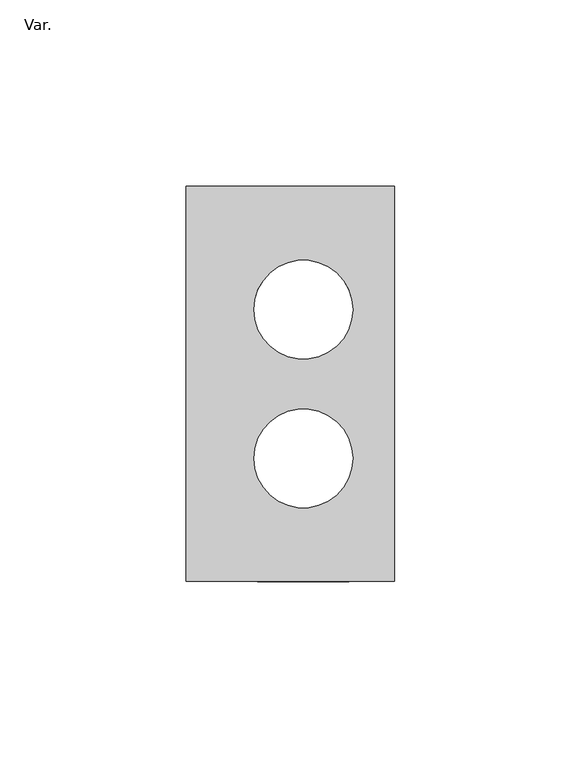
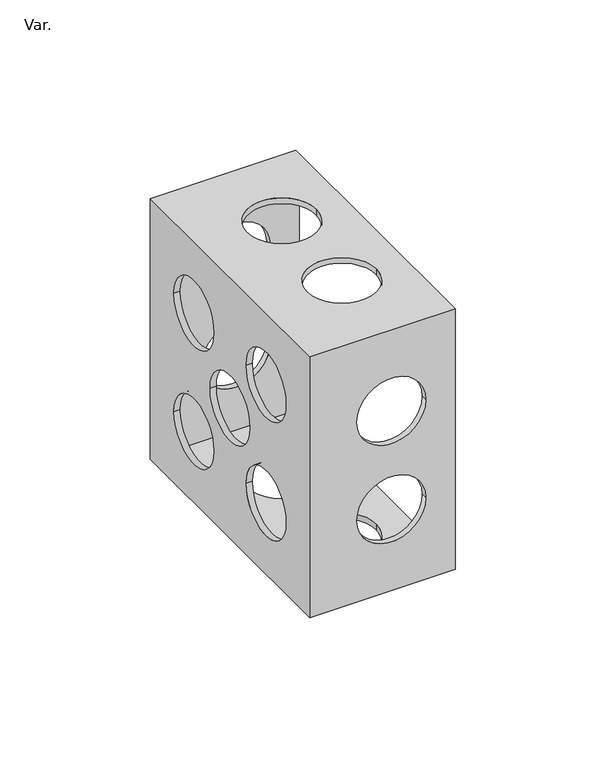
"""IFC4 building model written with IfcOpenShell, lengths in millimetres: cable carrier fitting geometry, AmancoWavin_ConduitFittings_CajaCuadrada : Var.."""

from ifc_helpers import new_model, si_unit, frame, origin, place, context, project, spatial, polyline, circle_curve, source, transform, mapped, element, save
from ifc_brep_helpers import plane_surface, revolved_surface, advanced_brep


def var_b6930540(model_context):
    return source(origin(), model_context, "Body", "AdvancedBrep", [
        advanced_brep(
        [(-55.9, 52.95, 105.9), (-55.9, -52.95, 105.9), (0.0, -52.95, 105.9), (0.0, 52.95, 105.9), (-37.75, -19.95, 105.9), (-11.25, -19.95, 105.9), (-37.75, 19.95, 105.9), (-11.25, 19.95, 105.9), (-55.9, 52.95, 0.0), (0.0, 52.95, 0.0), (0.0, -52.95, 0.0), (-55.9, -52.95, 0.0), (-37.75, -19.95, 0.0), (-11.25, -19.95, 0.0), (-37.75, 19.95, 0.0), (-11.25, 19.95, 0.0), (-55.9, -37.25, 76.95), (-55.9, -10.75, 76.95), (-55.9, -13.25, 52.95), (-55.9, 13.25, 52.95), (-55.9, -37.25, 28.95), (-55.9, -10.75, 28.95), (-55.9, 10.75, 76.95), (-55.9, 37.25, 76.95), (-55.9, 10.75, 28.95), (-55.9, 37.25, 28.95), (-11.25, -52.95, 33.0), (-37.75, -52.95, 33.0), (-11.25, -52.95, 72.9), (-37.75, -52.95, 72.9), (0.0, -50.65, 103.6), (0.0, 50.65, 103.6), (0.0, 50.65, 2.3), (0.0, -50.65, 2.3), (-37.75, 52.95, 33.0), (-11.25, 52.95, 33.0), (-37.75, 52.95, 72.9), (-11.25, 52.95, 72.9), (-37.75, -19.95, 103.6), (-11.25, -19.95, 103.6), (-11.25, -19.95, 2.3), (-37.75, -19.95, 2.3), (-11.25, -50.65, 33.0), (-37.75, -50.65, 33.0), (-37.75, 50.65, 33.0), (-11.25, 50.65, 33.0), (-53.5988593, 50.65, 103.6), (-53.5988593, -50.65, 103.6), (-53.5988593, -50.65, 2.3), (-53.5988593, 50.65, 2.3), (-53.5988593, -10.75, 76.95), (-53.5988593, -37.25, 76.95), (-53.5988593, 13.25, 52.95), (-53.5988593, -13.25, 52.95), (-53.5988593, -10.75, 28.95), (-53.5988593, -37.25, 28.95), (-53.5988593, 37.25, 76.95), (-53.5988593, 10.75, 76.95), (-53.5988593, 37.25, 28.95), (-53.5988593, 10.75, 28.95), (-11.25, 19.95, 103.6), (-37.75, 19.95, 103.6), (-37.75, -50.65, 72.9), (-11.25, -50.65, 72.9), (-37.75, 19.95, 2.3), (-11.25, 19.95, 2.3), (-11.25, 50.65, 72.9), (-37.75, 50.65, 72.9)],
        [
            (0, 1),
            (1, 2),
            (2, 3),
            (3, 0),
            (4, 5, circle_curve(frame((-24.5, -19.95, 105.9), z_axis=(0.0, 0.0, -1.0), x_axis=(1.0, 0.0, 0.0)), 13.25)),
            (5, 4, circle_curve(frame((-24.5, -19.95, 105.9), z_axis=(0.0, 0.0, -1.0), x_axis=(1.0, 0.0, 0.0)), 13.25)),
            (6, 7, circle_curve(frame((-24.5, 19.95, 105.9), z_axis=(0.0, 0.0, -1.0), x_axis=(1.0, 0.0, 0.0)), 13.25)),
            (7, 6, circle_curve(frame((-24.5, 19.95, 105.9), z_axis=(0.0, 0.0, -1.0), x_axis=(1.0, 0.0, 0.0)), 13.25)),
            (8, 9),
            (9, 10),
            (10, 11),
            (11, 8),
            (12, 13, circle_curve(frame((-24.5, -19.95, 0.0), z_axis=(0.0, 0.0, 1.0), x_axis=(1.0, 0.0, 0.0)), 13.25)),
            (13, 12, circle_curve(frame((-24.5, -19.95, 0.0), z_axis=(0.0, 0.0, 1.0), x_axis=(1.0, 0.0, 0.0)), 13.25)),
            (14, 15, circle_curve(frame((-24.5, 19.95, 0.0), z_axis=(0.0, 0.0, 1.0), x_axis=(1.0, 0.0, 0.0)), 13.25)),
            (15, 14, circle_curve(frame((-24.5, 19.95, 0.0), z_axis=(0.0, 0.0, 1.0), x_axis=(1.0, 0.0, 0.0)), 13.25)),
            (0, 8),
            (11, 1),
            (16, 17, circle_curve(frame((-55.9, -24.0, 76.95), z_axis=(1.0, 0.0, 0.0), x_axis=(0.0, 1.0, 0.0)), 13.25)),
            (17, 16, circle_curve(frame((-55.9, -24.0, 76.95), z_axis=(1.0, 0.0, 0.0), x_axis=(0.0, 1.0, 0.0)), 13.25)),
            (18, 19, circle_curve(frame((-55.9, 0.0, 52.95), z_axis=(1.0, 0.0, 0.0), x_axis=(0.0, 1.0, 0.0)), 13.25)),
            (19, 18, circle_curve(frame((-55.9, 0.0, 52.95), z_axis=(1.0, 0.0, 0.0), x_axis=(0.0, 1.0, 0.0)), 13.25)),
            (20, 21, circle_curve(frame((-55.9, -24.0, 28.95), z_axis=(1.0, 0.0, 0.0), x_axis=(0.0, 1.0, 0.0)), 13.25)),
            (21, 20, circle_curve(frame((-55.9, -24.0, 28.95), z_axis=(1.0, 0.0, 0.0), x_axis=(0.0, 1.0, 0.0)), 13.25)),
            (22, 23, circle_curve(frame((-55.9, 24.0, 76.95), z_axis=(1.0, 0.0, 0.0), x_axis=(0.0, 1.0, 0.0)), 13.25)),
            (23, 22, circle_curve(frame((-55.9, 24.0, 76.95), z_axis=(1.0, 0.0, 0.0), x_axis=(0.0, 1.0, 0.0)), 13.25)),
            (24, 25, circle_curve(frame((-55.9, 24.0, 28.95), z_axis=(1.0, 0.0, 0.0), x_axis=(0.0, 1.0, 0.0)), 13.25)),
            (25, 24, circle_curve(frame((-55.9, 24.0, 28.95), z_axis=(1.0, 0.0, 0.0), x_axis=(0.0, 1.0, 0.0)), 13.25)),
            (10, 2),
            (26, 27, circle_curve(frame((-24.5, -52.95, 33.0), z_axis=(0.0, 1.0, 0.0), x_axis=(1.0, 0.0, 0.0)), 13.25)),
            (27, 26, circle_curve(frame((-24.5, -52.95, 33.0), z_axis=(0.0, 1.0, 0.0), x_axis=(1.0, 0.0, 0.0)), 13.25)),
            (28, 29, circle_curve(frame((-24.5, -52.95, 72.9), z_axis=(0.0, 1.0, 0.0), x_axis=(1.0, 0.0, 0.0)), 13.25)),
            (29, 28, circle_curve(frame((-24.5, -52.95, 72.9), z_axis=(0.0, 1.0, 0.0), x_axis=(1.0, 0.0, 0.0)), 13.25)),
            (9, 3),
            (30, 31),
            (31, 32),
            (32, 33),
            (33, 30),
            (34, 35, circle_curve(frame((-24.5, 52.95, 33.0), z_axis=(0.0, -1.0, 0.0), x_axis=(1.0, 0.0, 0.0)), 13.25)),
            (35, 34, circle_curve(frame((-24.5, 52.95, 33.0), z_axis=(0.0, -1.0, 0.0), x_axis=(1.0, 0.0, 0.0)), 13.25)),
            (36, 37, circle_curve(frame((-24.5, 52.95, 72.9), z_axis=(0.0, -1.0, 0.0), x_axis=(1.0, 0.0, 0.0)), 13.25)),
            (37, 36, circle_curve(frame((-24.5, 52.95, 72.9), z_axis=(0.0, -1.0, 0.0), x_axis=(1.0, 0.0, 0.0)), 13.25)),
            (4, 38),
            (38, 39, circle_curve(frame((-24.5, -19.95, 103.6), z_axis=(0.0, 0.0, -1.0), x_axis=(1.0, 0.0, 0.0)), 13.25)),
            (39, 5),
            (13, 40),
            (40, 41, circle_curve(frame((-24.5, -19.95, 2.3), z_axis=(0.0, 0.0, 1.0), x_axis=(1.0, 0.0, 0.0)), 13.25)),
            (41, 12),
            (39, 38, circle_curve(frame((-24.5, -19.95, 103.6), z_axis=(0.0, 0.0, -1.0), x_axis=(1.0, 0.0, 0.0)), 13.25)),
            (41, 40, circle_curve(frame((-24.5, -19.95, 2.3), z_axis=(0.0, 0.0, 1.0), x_axis=(1.0, 0.0, 0.0)), 13.25)),
            (26, 42),
            (42, 43, circle_curve(frame((-24.5, -50.65, 33.0), z_axis=(0.0, 1.0, 0.0), x_axis=(1.0, 0.0, 0.0)), 13.25)),
            (43, 27),
            (34, 44),
            (44, 45, circle_curve(frame((-24.5, 50.65, 33.0), z_axis=(0.0, -1.0, 0.0), x_axis=(1.0, 0.0, 0.0)), 13.25)),
            (45, 35),
            (43, 42, circle_curve(frame((-24.5, -50.65, 33.0), z_axis=(0.0, 1.0, 0.0), x_axis=(1.0, 0.0, 0.0)), 13.25)),
            (45, 44, circle_curve(frame((-24.5, 50.65, 33.0), z_axis=(0.0, -1.0, 0.0), x_axis=(1.0, 0.0, 0.0)), 13.25)),
            (46, 47),
            (47, 48),
            (48, 49),
            (49, 46),
            (50, 51, circle_curve(frame((-53.5988593, -24.0, 76.95), z_axis=(-1.0, 0.0, 0.0), x_axis=(0.0, 1.0, 0.0)), 13.25)),
            (51, 50, circle_curve(frame((-53.5988593, -24.0, 76.95), z_axis=(-1.0, 0.0, 0.0), x_axis=(0.0, 1.0, 0.0)), 13.25)),
            (52, 53, circle_curve(frame((-53.5988593, 0.0, 52.95), z_axis=(-1.0, 0.0, 0.0), x_axis=(0.0, 1.0, 0.0)), 13.25)),
            (53, 52, circle_curve(frame((-53.5988593, 0.0, 52.95), z_axis=(-1.0, 0.0, 0.0), x_axis=(0.0, 1.0, 0.0)), 13.25)),
            (54, 55, circle_curve(frame((-53.5988593, -24.0, 28.95), z_axis=(-1.0, 0.0, 0.0), x_axis=(0.0, 1.0, 0.0)), 13.25)),
            (55, 54, circle_curve(frame((-53.5988593, -24.0, 28.95), z_axis=(-1.0, 0.0, 0.0), x_axis=(0.0, 1.0, 0.0)), 13.25)),
            (56, 57, circle_curve(frame((-53.5988593, 24.0, 76.95), z_axis=(-1.0, 0.0, 0.0), x_axis=(0.0, 1.0, 0.0)), 13.25)),
            (57, 56, circle_curve(frame((-53.5988593, 24.0, 76.95), z_axis=(-1.0, 0.0, 0.0), x_axis=(0.0, 1.0, 0.0)), 13.25)),
            (58, 59, circle_curve(frame((-53.5988593, 24.0, 28.95), z_axis=(-1.0, 0.0, 0.0), x_axis=(0.0, 1.0, 0.0)), 13.25)),
            (59, 58, circle_curve(frame((-53.5988593, 24.0, 28.95), z_axis=(-1.0, 0.0, 0.0), x_axis=(0.0, 1.0, 0.0)), 13.25)),
            (46, 31),
            (30, 47),
            (60, 61, circle_curve(frame((-24.5, 19.95, 103.6), z_axis=(0.0, 0.0, 1.0), x_axis=(1.0, 0.0, 0.0)), 13.25)),
            (61, 60, circle_curve(frame((-24.5, 19.95, 103.6), z_axis=(0.0, 0.0, 1.0), x_axis=(1.0, 0.0, 0.0)), 13.25)),
            (33, 48),
            (62, 63, circle_curve(frame((-24.5, -50.65, 72.9), z_axis=(0.0, -1.0, 0.0), x_axis=(1.0, 0.0, 0.0)), 13.25)),
            (63, 62, circle_curve(frame((-24.5, -50.65, 72.9), z_axis=(0.0, -1.0, 0.0), x_axis=(1.0, 0.0, 0.0)), 13.25)),
            (32, 49),
            (64, 65, circle_curve(frame((-24.5, 19.95, 2.3), z_axis=(0.0, 0.0, -1.0), x_axis=(1.0, 0.0, 0.0)), 13.25)),
            (65, 64, circle_curve(frame((-24.5, 19.95, 2.3), z_axis=(0.0, 0.0, -1.0), x_axis=(1.0, 0.0, 0.0)), 13.25)),
            (66, 67, circle_curve(frame((-24.5, 50.65, 72.9), z_axis=(0.0, 1.0, 0.0), x_axis=(1.0, 0.0, 0.0)), 13.25)),
            (67, 66, circle_curve(frame((-24.5, 50.65, 72.9), z_axis=(0.0, 1.0, 0.0), x_axis=(1.0, 0.0, 0.0)), 13.25)),
            (16, 51),
            (50, 17),
            (18, 53),
            (52, 19),
            (6, 61),
            (60, 7),
            (15, 65),
            (64, 14),
            (28, 63),
            (62, 29),
            (36, 67),
            (66, 37),
            (20, 55),
            (54, 21),
            (22, 57),
            (56, 23),
            (24, 59),
            (58, 25),
        ],
        [
            plane_surface(frame((-55.9, 17.6416276, 105.9), z_axis=(0.0, 0.0, 1.0), x_axis=(0.0, -1.0, 0.0))),
            plane_surface(frame((-55.9, 17.6416276, 0.0), z_axis=(0.0, 0.0, -1.0), x_axis=(0.0, 1.0, 0.0))),
            plane_surface(frame((-55.9, 52.95, 105.9), z_axis=(-1.0, 0.0, 0.0), x_axis=(0.0, 0.0, -1.0))),
            plane_surface(frame((-55.9, -52.95, 105.9), z_axis=(0.0, -1.0, 0.0), x_axis=(0.0, 0.0, -1.0))),
            plane_surface(frame((0.0, -52.95, 105.9), z_axis=(1.0, 0.0, 0.0), x_axis=(0.0, 0.0, -1.0))),
            plane_surface(frame((0.0, 52.95, 105.9), z_axis=(0.0, 1.0, 0.0), x_axis=(0.0, 0.0, -1.0))),
            revolved_surface(polyline([(-11.25, -19.95, 103.6), (-11.25, -19.95, 105.9)]), (-24.5, -19.95, 0.0), (0.0, 0.0, -1.0)),
            revolved_surface(polyline([(-11.25, -19.95, 0.0), (-11.25, -19.95, 2.3)]), (-24.5, -19.95, 0.0), (0.0, 0.0, -1.0)),
            revolved_surface(polyline([(-11.25, -52.95, 33.0), (-11.25, -50.64999999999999, 33.0)]), (-24.5, 52.95, 33.0), (0.0, -1.0, 0.0)),
            revolved_surface(polyline([(-11.25, 50.65, 33.0), (-11.25, 52.95, 33.0)]), (-24.5, 52.95, 33.0), (0.0, -1.0, 0.0)),
            plane_surface(frame((-53.5988593, -50.65, 103.6), z_axis=(1.0, 0.0, 0.0), x_axis=(0.0, 1.0, 0.0))),
            plane_surface(frame((0.0, 50.65, 103.6), z_axis=(0.0, 0.0, -1.0), x_axis=(-1.0, 0.0, 0.0))),
            plane_surface(frame((0.0, -50.65, 103.6), z_axis=(0.0, 1.0, 0.0), x_axis=(-1.0, 0.0, 0.0))),
            plane_surface(frame((0.0, -50.65, 2.3), z_axis=(0.0, 0.0, 1.0), x_axis=(-1.0, 0.0, 0.0))),
            plane_surface(frame((0.0, 50.65, 2.3), z_axis=(0.0, -1.0, 0.0), x_axis=(-1.0, 0.0, 0.0))),
            revolved_surface(polyline([(-53.5988593, -10.75, 76.95), (-55.9, -10.75, 76.95)]), (-55.9, -24.0, 76.95), (1.0, 0.0, 0.0)),
            revolved_surface(polyline([(-53.5988593, 13.25, 52.95), (-55.9, 13.25, 52.95)]), (0.0, 0.0, 52.95), (1.0, 0.0, 0.0)),
            revolved_surface(polyline([(-11.25, 19.95, 103.6), (-11.25, 19.95, 105.9)]), (-24.5, 19.95, 0.0), (0.0, 0.0, -1.0)),
            revolved_surface(polyline([(-11.25, 19.95, 0.0), (-11.25, 19.95, 2.3)]), (-24.5, 19.95, 0.0), (0.0, 0.0, -1.0)),
            revolved_surface(polyline([(-11.25, -52.95, 72.9), (-11.25, -50.65, 72.9)]), (-24.5, 0.0, 72.9), (0.0, -1.0, 0.0)),
            revolved_surface(polyline([(-11.25, 50.65, 72.9), (-11.25, 52.95, 72.9)]), (-24.5, 0.0, 72.9), (0.0, -1.0, 0.0)),
            revolved_surface(polyline([(-53.5988593, -10.75, 28.95), (-55.9, -10.75, 28.95)]), (0.0, -24.0, 28.95), (1.0, 0.0, 0.0)),
            revolved_surface(polyline([(-53.5988593, 37.25, 76.95), (-55.9, 37.25, 76.95)]), (0.0, 24.0, 76.95), (1.0, 0.0, 0.0)),
            revolved_surface(polyline([(-53.5988593, 37.25, 28.95), (-55.9, 37.25, 28.95)]), (0.0, 24.0, 28.95), (1.0, 0.0, 0.0)),
        ],
        [
            (0, [[1, 2, 3, 4], [5, 6], [7, 8]]),
            (1, [[9, 10, 11, 12], [13, 14], [15, 16]]),
            (2, [[-1, 17, -12, 18], [19, 20], [21, 22], [23, 24], [25, 26], [27, 28]]),
            (3, [[-2, -18, -11, 29], [30, 31], [32, 33]]),
            (4, [[-3, -29, -10, 34], [35, 36, 37, 38]]),
            (5, [[-4, -34, -9, -17], [39, 40], [41, 42]]),
            (6, [[-5, 43, 44, 45]]),
            (7, [[-14, 46, 47, 48]]),
            (6, [[-6, -45, 49, -43]]),
            (7, [[-13, -48, 50, -46]]),
            (8, [[-30, 51, 52, 53]]),
            (9, [[-39, 54, 55, 56]]),
            (8, [[-31, -53, 57, -51]]),
            (9, [[-40, -56, 58, -54]]),
            (10, [[59, 60, 61, 62], [63, 64], [65, 66], [67, 68], [69, 70], [71, 72]]),
            (11, [[-59, 73, -35, 74], [-44, -49], [75, 76]]),
            (12, [[-60, -74, -38, 77], [-52, -57], [78, 79]]),
            (13, [[-61, -77, -37, 80], [-47, -50], [81, 82]]),
            (14, [[-62, -80, -36, -73], [-55, -58], [83, 84]]),
            (15, [[85, -63, 86, -19]]),
            (15, [[-85, -20, -86, -64]]),
            (16, [[87, -65, 88, -21]]),
            (16, [[-87, -22, -88, -66]]),
            (17, [[-7, 89, -75, 90]]),
            (18, [[-16, 91, -81, 92]]),
            (17, [[-8, -90, -76, -89]]),
            (18, [[-15, -92, -82, -91]]),
            (19, [[-32, 93, -78, 94]]),
            (20, [[-41, 95, -83, 96]]),
            (19, [[-33, -94, -79, -93]]),
            (20, [[-42, -96, -84, -95]]),
            (21, [[97, -67, 98, -23]]),
            (21, [[-97, -24, -98, -68]]),
            (22, [[99, -69, 100, -25]]),
            (22, [[-99, -26, -100, -70]]),
            (23, [[101, -71, 102, -27]]),
            (23, [[-101, -28, -102, -72]]),
        ],
    ),
    ])


if __name__ == "__main__":
    model = new_model("IFC4")
    model_context = context("Model", 3, world=origin())
    ifc_project = project(units=[si_unit("LENGTHUNIT", "METRE", prefix="MILLI")], contexts=[model_context])
    site = spatial("IfcSite", under=ifc_project)
    building = spatial("IfcBuilding", under=site)
    placement = place(None, origin())
    var_shape = var_b6930540(model_context)
    element("IfcCableCarrierFitting", 1, ObjectType="AmancoWavin_ConduitFittings_CajaCuadrada : Var.", at=placement, inside=building, context=model_context, shape_type="MappedRepresentation", body=[
        mapped(var_shape, transform((0.0, 0.0, 0.0), x_axis=(1.0, 0.0, 0.0), y_axis=(0.0, 1.0, 0.0), z_axis=(0.0, 0.0, 1.0))),
    ])
    save(model, "model.ifc")
